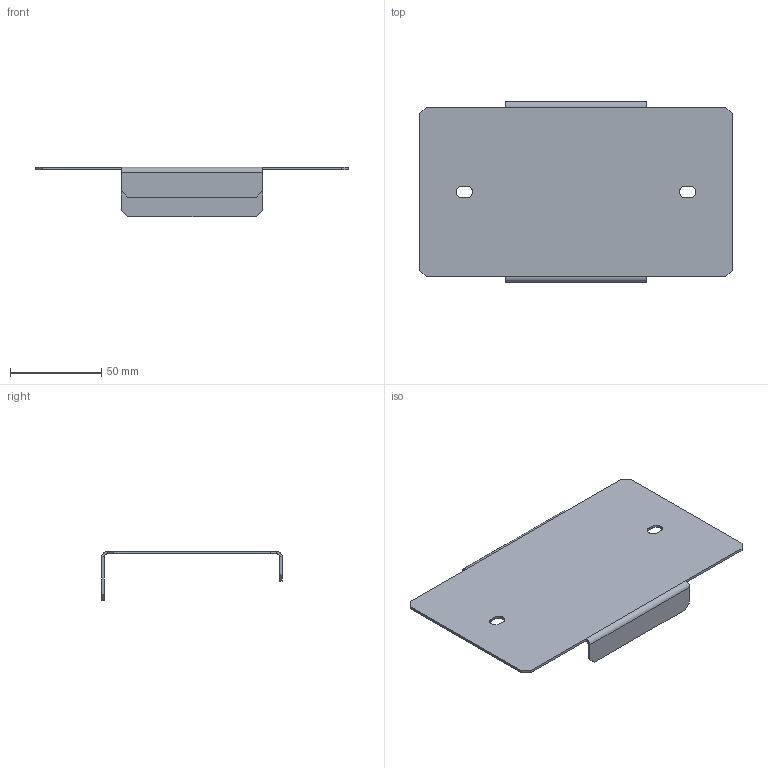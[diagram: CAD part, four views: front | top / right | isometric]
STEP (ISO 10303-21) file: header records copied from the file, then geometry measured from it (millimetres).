
FILE_DESCRIPTION (( 'STEP AP203' ), '1' );
FILE_NAME ('ZA 30 Ïàíåëü öîêîëÿ.STEP', '2012-11-20T05:09:14', ( 'system' ), ( '' ), 'SwSTEP 2.0', 'SolidWorks 2012', '' );
FILE_SCHEMA (( 'CONFIG_CONTROL_DESIGN' ));
Length unit declared in the file: millimetre
Products named in the file (1): ZA 30 Ïàíåëü öîêîëÿ
Bounding box: 171.5 x 99 x 27 mm (x, y, z)
Volume: 26989 mm3; surface area: 39469.4 mm2
Topology: 1 solids, 1 shells, 44 faces, 110 edges, 68 vertices
Faces by surface type: plane 34, cylinder 10
Entity records: 1371 total; most frequent: CARTESIAN_POINT 223, DIRECTION 220, ORIENTED_EDGE 220, EDGE_CURVE 110, VECTOR 90, LINE 90, VERTEX_POINT 68, AXIS2_PLACEMENT_3D 65
